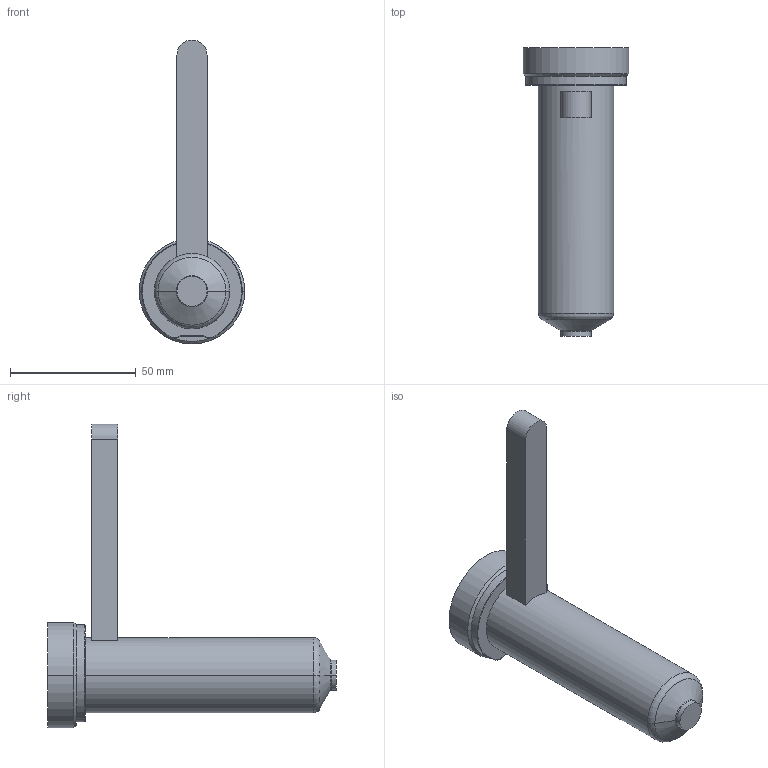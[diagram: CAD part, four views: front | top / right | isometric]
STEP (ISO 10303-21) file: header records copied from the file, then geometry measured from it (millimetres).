
FILE_DESCRIPTION((''),'2;1');
FILE_NAME('EO08_VG-FB_STD_100_COT','2024-02-19T13:29:13',('sundharh'),(''),'CREO PARAMETRIC BY PTC INC, 2023154','CREO PARAMETRIC BY PTC INC, 2023154','');
FILE_SCHEMA(('CONFIG_CONTROL_DESIGN'));
Length unit declared in the file: millimetre
Products named in the file (1): EO08_VG-FB_STD_100_COT
Bounding box: 42 x 115 x 121 mm (x, y, z)
Volume: 98319.2 mm3; surface area: 17275.3 mm2
Topology: 1 solids, 1 shells, 31 faces, 67 edges, 40 vertices
Faces by surface type: cylinder 11, plane 9, torus 7, cone 4
Entity records: 951 total; most frequent: CARTESIAN_POINT 218, DIRECTION 159, ORIENTED_EDGE 134, AXIS2_PLACEMENT_3D 67, EDGE_CURVE 67, VERTEX_POINT 40, CIRCLE 36, EDGE_LOOP 33
